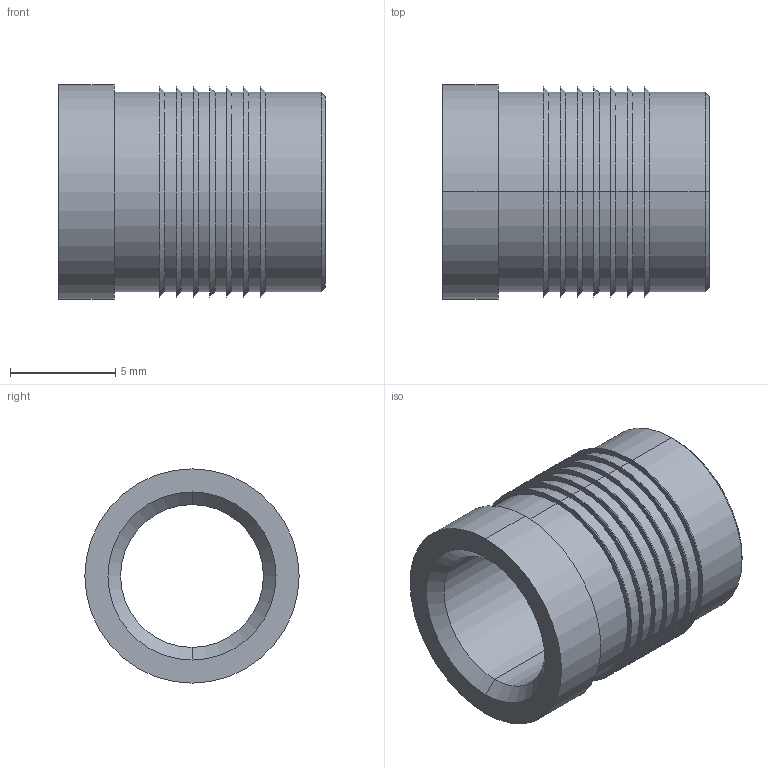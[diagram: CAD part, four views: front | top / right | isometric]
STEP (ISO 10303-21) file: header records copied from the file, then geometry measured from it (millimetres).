
FILE_DESCRIPTION (( 'STEP AP203' ), '1' );
FILE_NAME ('FSUK-PU-M08-S.STEP', '2021-04-15T12:31:59', ( '' ), ( '' ), 'SwSTEP 2.0', 'SolidWorks 2021', '' );
FILE_SCHEMA (( 'CONFIG_CONTROL_DESIGN' ));
Length unit declared in the file: millimetre
Products named in the file (1): FSUK-PU-M08-S
Bounding box: 12.7 x 10.2 x 10.2 mm (x, y, z)
Volume: 465.6 mm3; surface area: 806.5 mm2
Topology: 1 solids, 1 shells, 50 faces, 100 edges, 60 vertices
Faces by surface type: cone 20, cylinder 20, plane 10
Entity records: 1385 total; most frequent: DIRECTION 262, CARTESIAN_POINT 211, ORIENTED_EDGE 200, AXIS2_PLACEMENT_3D 111, EDGE_CURVE 100, VERTEX_POINT 60, EDGE_LOOP 60, CIRCLE 60
